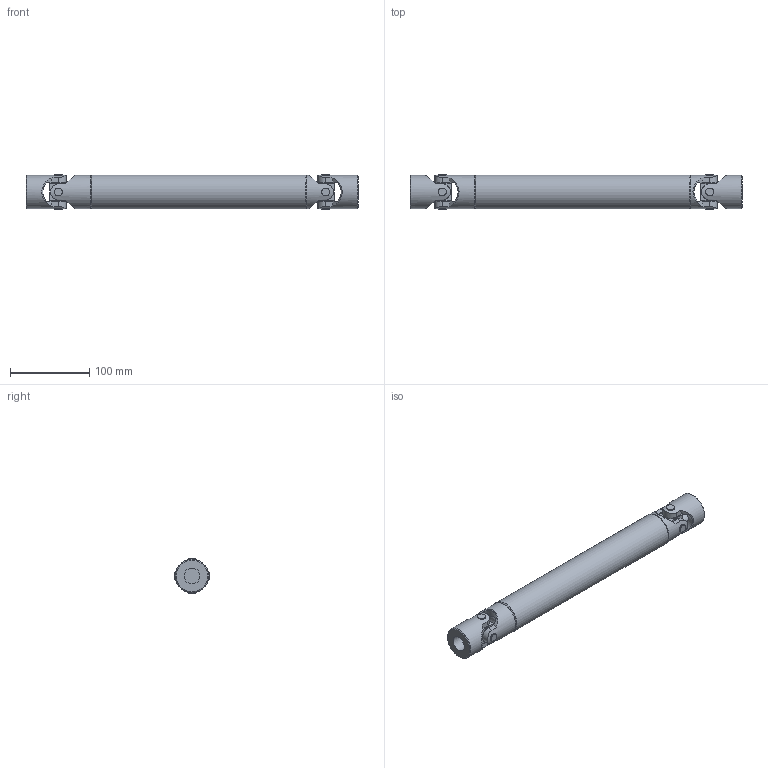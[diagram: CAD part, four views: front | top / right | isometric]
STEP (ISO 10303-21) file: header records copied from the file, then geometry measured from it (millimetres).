
FILE_DESCRIPTION(/* description */ (''),/* implementation_level */ '2;1');
FILE_NAME(/* name */ '\\SRV2016\societa\Stefano\Disegni 3D\0Catalogo 3D\15Trasmissioni speciali XA\Ø42_3XA\3XA.stp',/* time_stamp */ '2023-05-17T08:16:03+02:00',/* author */ ('acquisti'),/* organization */ (''),/* preprocessor_version */ 'ST-DEVELOPER v15.6',/* originating_system */ 'Autodesk Inventor 2015',/* authorisation */ '');
FILE_SCHEMA (('AUTOMOTIVE_DESIGN { 1 0 10303 214 3 1 1 }'));
Length unit declared in the file: millimetre
Products named in the file (5): 3X LAI; 3X LCI; 3X MOS; 3X SFE; Ø42_3XA
Assembly tree (6 placements, depth 2):
  Ø42_3XA
    3X LAI
    3X LCI
    3X MOS  x2
    3X SFE  x2
Bounding box: 420 x 44.4 x 44.4 mm (x, y, z)
Volume: 407396.9 mm3; surface area: 128854.2 mm2
Topology: 6 solids, 6 shells, 182 faces, 471 edges, 317 vertices
Faces by surface type: plane 92, cylinder 61, cone 25, torus 4
Full cylindrical faces by diameter (mm): 10 x8, 18 x8, 20 x3, 22 x4, 35 x1, 42 x4, 42.5 x1
Entity records: 4852 total; most frequent: CARTESIAN_POINT 1429, DIRECTION 684, ORIENTED_EDGE 670, EDGE_CURVE 335, AXIS2_PLACEMENT_3D 270, VERTEX_POINT 241, EDGE_LOOP 188, LINE 144
